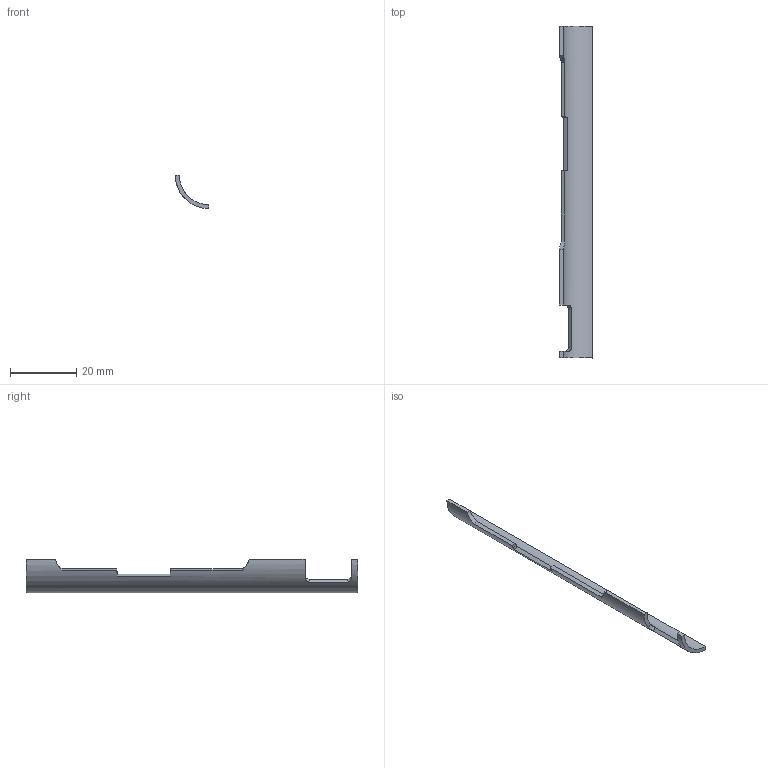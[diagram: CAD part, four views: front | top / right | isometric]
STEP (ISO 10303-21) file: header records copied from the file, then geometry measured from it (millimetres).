
FILE_DESCRIPTION(('Open CASCADE Model'),'2;1');
FILE_NAME('Open CASCADE Shape Model','2026-09-15T13:33:25',('Author'),( 'Open CASCADE'),'Open CASCADE STEP processor 7.7','Open CASCADE 7.7' ,'Unknown');
FILE_SCHEMA(('AUTOMOTIVE_DESIGN { 1 0 10303 214 1 1 1 1 }'));
Length unit declared in the file: millimetre
Products named in the file (1): Open CASCADE STEP translator 7.7 1
Bounding box: 10 x 100 x 10 mm (x, y, z)
Volume: 1405.8 mm3; surface area: 2642.4 mm2
Topology: 1 solids, 1 shells, 26 faces, 72 edges, 48 vertices
Faces by surface type: plane 19, bspline 5, cylinder 2
Entity records: 2636 total; most frequent: CARTESIAN_POINT 1250, DIRECTION 234, ORIENTED_EDGE 144, PCURVE 144, DEFINITIONAL_REPRESENTATION 144, LINE 138, VECTOR 138, EDGE_CURVE 72
